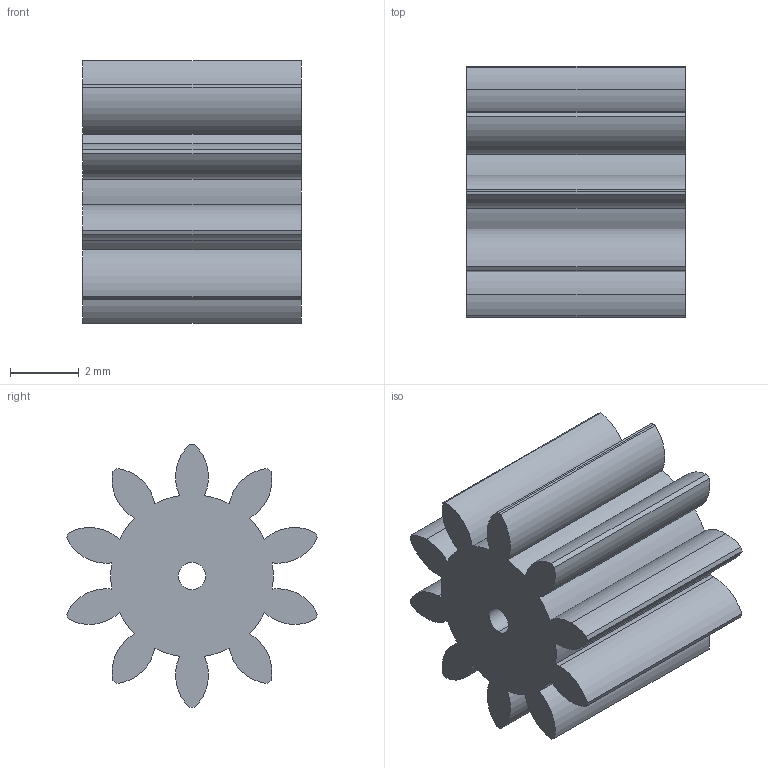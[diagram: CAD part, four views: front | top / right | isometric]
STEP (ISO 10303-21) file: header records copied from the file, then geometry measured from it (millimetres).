
FILE_DESCRIPTION (( 'STEP AP214' ), '1' );
FILE_NAME ('New Inch - Spur gear 40DP 10T 20PA 0.25FW ---S10N3.0H2.0L0.03125N.STEP', '2025-10-11T18:32:00', ( '' ), ( '' ), 'SwSTEP 2.0', 'SolidWorks 2024', '' );
FILE_SCHEMA (( 'AUTOMOTIVE_DESIGN' ));
Length unit declared in the file: inch
Products named in the file (1): New Inch - Spur gear 40DP 10T 20PA 0.25FW ---S10N3.0H2.0L0.03125N
Bounding box: 6.35 x 7.29 x 7.62 mm (x, y, z)
Volume: 179.7 mm3; surface area: 334.3 mm2
Topology: 1 solids, 1 shells, 49 faces, 141 edges, 94 vertices
Faces by surface type: cylinder 47, plane 2
Entity records: 1700 total; most frequent: DIRECTION 335, CARTESIAN_POINT 285, ORIENTED_EDGE 282, AXIS2_PLACEMENT_3D 144, EDGE_CURVE 141, CIRCLE 94, VERTEX_POINT 94, EDGE_LOOP 51
